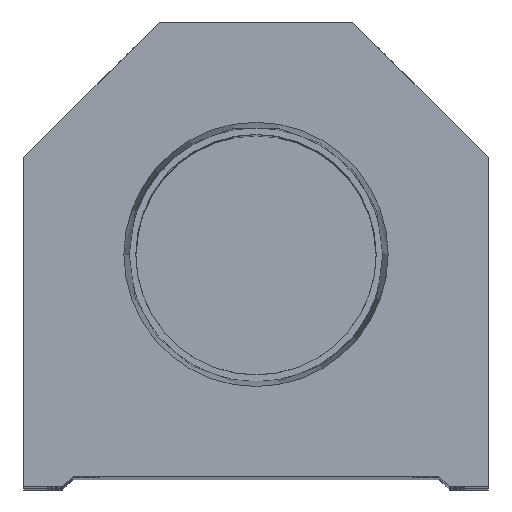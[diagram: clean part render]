
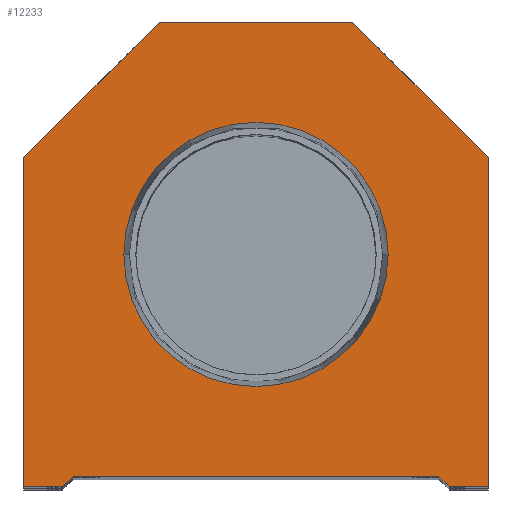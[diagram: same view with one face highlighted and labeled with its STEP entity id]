
A CAD part, top view. The second image highlights one B-rep face of the part: STEP entity #12233.
In plain terms, the highlighted planar face has unit normal (0, 0, 1).
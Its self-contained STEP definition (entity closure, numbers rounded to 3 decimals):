
#330 = CARTESIAN_POINT ( 'NONE',  ( -22.25, 31.5, 0. ) ) ;
#399 = ORIENTED_EDGE ( 'NONE', *, *, #11387, .F. ) ;
#698 = CARTESIAN_POINT ( 'NONE',  ( 17.5, 0., 0. ) ) ;
#1205 = AXIS2_PLACEMENT_3D ( 'NONE', #5757, #17819, #3936 ) ;
#1258 = ORIENTED_EDGE ( 'NONE', *, *, #19638, .T. ) ;
#1536 = DIRECTION ( 'NONE',  ( 0., 0., 1. ) ) ;
#1579 = VECTOR ( 'NONE', #13368, 1000. ) ;
#1599 = DIRECTION ( 'NONE',  ( 0., 0., 1. ) ) ;
#1643 = VERTEX_POINT ( 'NONE', #14801 ) ;
#1661 = VERTEX_POINT ( 'NONE', #18658 ) ;
#1684 = LINE ( 'NONE', #14072, #6643 ) ;
#1914 = VERTEX_POINT ( 'NONE', #4274 ) ;
#2129 = CIRCLE ( 'NONE', #1205, 12.647 ) ;
#2236 = LINE ( 'NONE', #15021, #4117 ) ;
#2317 = ORIENTED_EDGE ( 'NONE', *, *, #10249, .T. ) ;
#2717 = ORIENTED_EDGE ( 'NONE', *, *, #19946, .F. ) ;
#2970 = EDGE_CURVE ( 'NONE', #17402, #11884, #11965, .T. ) ;
#3145 = VECTOR ( 'NONE', #3489, 1000. ) ;
#3309 = CARTESIAN_POINT ( 'NONE',  ( 17.5, 1., 0. ) ) ;
#3390 = DIRECTION ( 'NONE',  ( 0., 1., 0. ) ) ;
#3489 = DIRECTION ( 'NONE',  ( 1., 0., 0. ) ) ;
#3526 = CARTESIAN_POINT ( 'NONE',  ( 22.25, 0., 0. ) ) ;
#3936 = DIRECTION ( 'NONE',  ( 1., 0., 0. ) ) ;
#4117 = VECTOR ( 'NONE', #7101, 1000. ) ;
#4274 = CARTESIAN_POINT ( 'NONE',  ( 9.25, 44.5, 0. ) ) ;
#4385 = EDGE_CURVE ( 'NONE', #11884, #12036, #1684, .T. ) ;
#4800 = ORIENTED_EDGE ( 'NONE', *, *, #14372, .T. ) ;
#4896 = DIRECTION ( 'NONE',  ( 1., 0., 0. ) ) ;
#4937 = CARTESIAN_POINT ( 'NONE',  ( -18.5, 0., 0. ) ) ;
#5096 = DIRECTION ( 'NONE',  ( 0.707, -0.707, 0. ) ) ;
#5243 = DIRECTION ( 'NONE',  ( 1., 0., 0. ) ) ;
#5757 = CARTESIAN_POINT ( 'NONE',  ( 0., 22.25, 0. ) ) ;
#5883 = EDGE_CURVE ( 'NONE', #17560, #1661, #10907, .T. ) ;
#5884 = LINE ( 'NONE', #13303, #7145 ) ;
#6352 = DIRECTION ( 'NONE',  ( -0.707, -0.707, 0. ) ) ;
#6643 = VECTOR ( 'NONE', #3390, 1000. ) ;
#6850 = ORIENTED_EDGE ( 'NONE', *, *, #16831, .T. ) ;
#7022 = VERTEX_POINT ( 'NONE', #15503 ) ;
#7101 = DIRECTION ( 'NONE',  ( 0., -1., 0. ) ) ;
#7145 = VECTOR ( 'NONE', #8946, 1000. ) ;
#7514 = PLANE ( 'NONE',  #12986 ) ;
#7821 = EDGE_CURVE ( 'NONE', #1914, #17560, #8795, .T. ) ;
#7874 = VERTEX_POINT ( 'NONE', #13156 ) ;
#7904 = FACE_OUTER_BOUND ( 'NONE', #8511, .T. ) ;
#8511 = EDGE_LOOP ( 'NONE', ( #13884, #2317, #6850, #4800, #15913, #13848, #1258, #19905, #18514, #14377 ) ) ;
#8795 = LINE ( 'NONE', #18011, #1579 ) ;
#8946 = DIRECTION ( 'NONE',  ( -0.707, 0.707, 0. ) ) ;
#9429 = CARTESIAN_POINT ( 'NONE',  ( 18.5, 0., 0. ) ) ;
#9684 = CARTESIAN_POINT ( 'NONE',  ( -17.5, 0., 0. ) ) ;
#9718 = CARTESIAN_POINT ( 'NONE',  ( 22.25, 31.5, 0. ) ) ;
#9835 = VECTOR ( 'NONE', #5096, 1000. ) ;
#10249 = EDGE_CURVE ( 'NONE', #14773, #1643, #14322, .T. ) ;
#10483 = VECTOR ( 'NONE', #19662, 1000. ) ;
#10799 = CARTESIAN_POINT ( 'NONE',  ( 0., 22.25, 0. ) ) ;
#10907 = LINE ( 'NONE', #330, #12848 ) ;
#11387 = EDGE_CURVE ( 'NONE', #7874, #7022, #16576, .T. ) ;
#11884 = VERTEX_POINT ( 'NONE', #3526 ) ;
#11965 = LINE ( 'NONE', #698, #10483 ) ;
#12036 = VERTEX_POINT ( 'NONE', #9718 ) ;
#12233 = ADVANCED_FACE ( 'NONE', ( #16928, #7904 ), #7514, .T. ) ;
#12337 = VECTOR ( 'NONE', #14422, 1000. ) ;
#12819 = LINE ( 'NONE', #17681, #9835 ) ;
#12848 = VECTOR ( 'NONE', #6352, 1000. ) ;
#12986 = AXIS2_PLACEMENT_3D ( 'NONE', #17029, #1536, #19956 ) ;
#13156 = CARTESIAN_POINT ( 'NONE',  ( -12.647, 22.25, 0. ) ) ;
#13303 = CARTESIAN_POINT ( 'NONE',  ( 22.25, 31.5, 0. ) ) ;
#13368 = DIRECTION ( 'NONE',  ( -1., 0., 0. ) ) ;
#13410 = VERTEX_POINT ( 'NONE', #3309 ) ;
#13848 = ORIENTED_EDGE ( 'NONE', *, *, #4385, .T. ) ;
#13884 = ORIENTED_EDGE ( 'NONE', *, *, #17964, .T. ) ;
#14072 = CARTESIAN_POINT ( 'NONE',  ( 22.25, 0., 0. ) ) ;
#14322 = LINE ( 'NONE', #14528, #12337 ) ;
#14372 = EDGE_CURVE ( 'NONE', #13410, #17402, #12819, .T. ) ;
#14377 = ORIENTED_EDGE ( 'NONE', *, *, #17477, .T. ) ;
#14422 = DIRECTION ( 'NONE',  ( 0.707, 0.707, 0. ) ) ;
#14528 = CARTESIAN_POINT ( 'NONE',  ( -9.25, 9.25, 0. ) ) ;
#14773 = VERTEX_POINT ( 'NONE', #4937 ) ;
#14801 = CARTESIAN_POINT ( 'NONE',  ( -17.5, 1., 0. ) ) ;
#15021 = CARTESIAN_POINT ( 'NONE',  ( -22.25, 0., 0. ) ) ;
#15503 = CARTESIAN_POINT ( 'NONE',  ( 12.647, 22.25, 0. ) ) ;
#15672 = LINE ( 'NONE', #9684, #3145 ) ;
#15913 = ORIENTED_EDGE ( 'NONE', *, *, #2970, .T. ) ;
#16122 = LINE ( 'NONE', #19221, #18953 ) ;
#16576 = CIRCLE ( 'NONE', #18190, 12.647 ) ;
#16831 = EDGE_CURVE ( 'NONE', #1643, #13410, #16122, .T. ) ;
#16928 = FACE_BOUND ( 'NONE', #17720, .T. ) ;
#17029 = CARTESIAN_POINT ( 'NONE',  ( 0., 0., 0. ) ) ;
#17402 = VERTEX_POINT ( 'NONE', #9429 ) ;
#17477 = EDGE_CURVE ( 'NONE', #1661, #18615, #2236, .T. ) ;
#17560 = VERTEX_POINT ( 'NONE', #18508 ) ;
#17681 = CARTESIAN_POINT ( 'NONE',  ( 9.25, 9.25, 0. ) ) ;
#17720 = EDGE_LOOP ( 'NONE', ( #2717, #399 ) ) ;
#17819 = DIRECTION ( 'NONE',  ( 0., 0., 1. ) ) ;
#17964 = EDGE_CURVE ( 'NONE', #18615, #14773, #15672, .T. ) ;
#18011 = CARTESIAN_POINT ( 'NONE',  ( 9.25, 44.5, 0. ) ) ;
#18190 = AXIS2_PLACEMENT_3D ( 'NONE', #10799, #1599, #4896 ) ;
#18508 = CARTESIAN_POINT ( 'NONE',  ( -9.25, 44.5, 0. ) ) ;
#18514 = ORIENTED_EDGE ( 'NONE', *, *, #5883, .T. ) ;
#18615 = VERTEX_POINT ( 'NONE', #19922 ) ;
#18658 = CARTESIAN_POINT ( 'NONE',  ( -22.25, 31.5, 0. ) ) ;
#18953 = VECTOR ( 'NONE', #5243, 1000. ) ;
#19221 = CARTESIAN_POINT ( 'NONE',  ( -17.5, 1., 0. ) ) ;
#19638 = EDGE_CURVE ( 'NONE', #12036, #1914, #5884, .T. ) ;
#19662 = DIRECTION ( 'NONE',  ( 1., 0., 0. ) ) ;
#19905 = ORIENTED_EDGE ( 'NONE', *, *, #7821, .T. ) ;
#19922 = CARTESIAN_POINT ( 'NONE',  ( -22.25, 0., 0. ) ) ;
#19946 = EDGE_CURVE ( 'NONE', #7022, #7874, #2129, .T. ) ;
#19956 = DIRECTION ( 'NONE',  ( 1., 0., 0. ) ) ;
